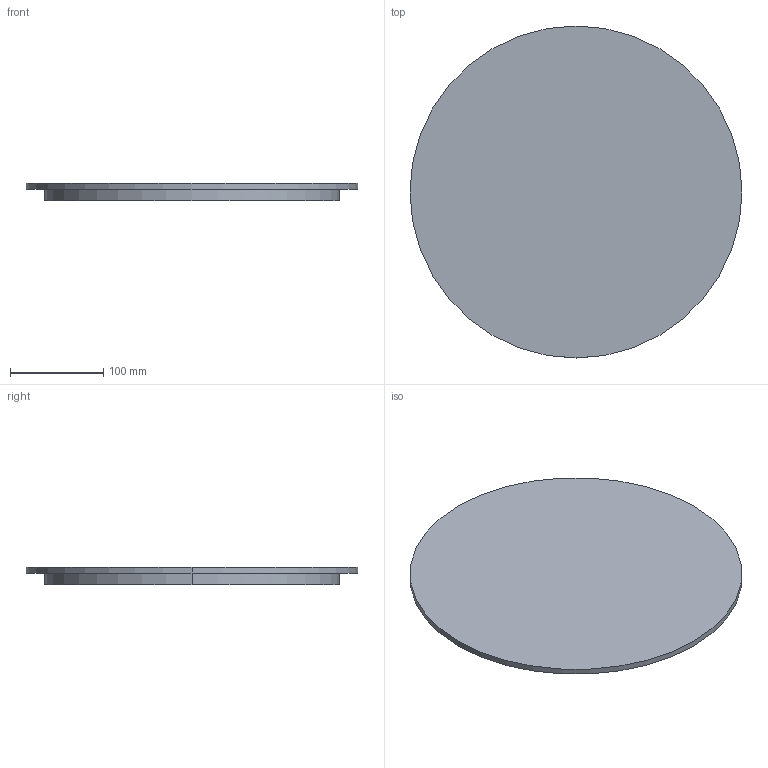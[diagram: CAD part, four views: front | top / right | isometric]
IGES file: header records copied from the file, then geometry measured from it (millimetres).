
Start section:  PTC IGES file: C:\Documents and Settings\Brad\Desktop\IGES\cover.igs
Global section: file name: C:\Documents and Settings\Brad\Desktop\IGES\cover.igs; native system: Brad by Parametric Technology Corporation; preprocessor: 2003250; author: Unknown; organization: PTC; date: 040521.142625; units: inch
Bounding box: 355.6 x 355.6 x 19.05 mm (x, y, z)
Volume: 1626115.9 mm3; surface area: 218327.6 mm2
Topology: 1 solids, 1 shells, 7 faces, 12 edges, 8 vertices
Faces by surface type: revolution 4, bspline 3
